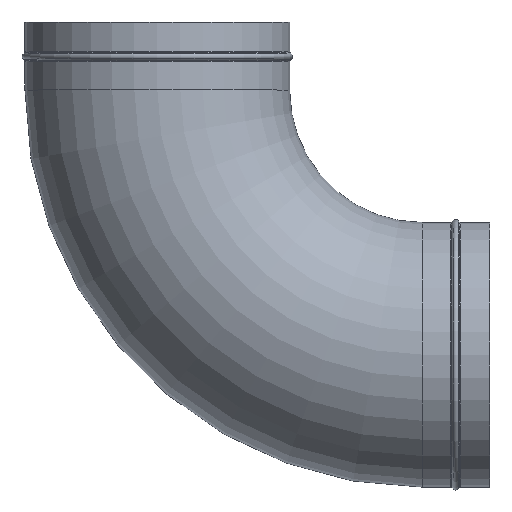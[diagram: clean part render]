
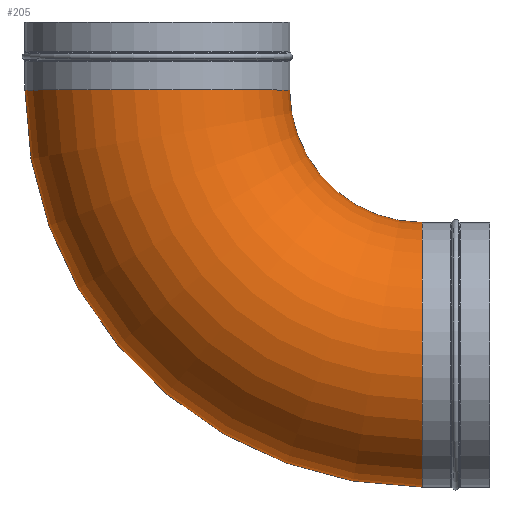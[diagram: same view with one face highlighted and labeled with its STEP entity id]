
A CAD part, top view. The second image highlights one B-rep face of the part: STEP entity #205.
In plain terms, the highlighted toroidal (fillet/blend) face has major radius 273 mm and minor radius 136.5 mm.
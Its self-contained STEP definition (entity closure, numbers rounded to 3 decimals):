
#205=ADVANCED_FACE('',(#295),#267,.T.);
#267=TOROIDAL_SURFACE('',#994,273.,136.5);
#295=FACE_OUTER_BOUND('',#355,.T.);
#355=EDGE_LOOP('',(#419,#420,#421,#422,#423,#424));
#419=ORIENTED_EDGE('',*,*,#755,.T.);
#420=ORIENTED_EDGE('',*,*,#756,.F.);
#421=ORIENTED_EDGE('',*,*,#757,.F.);
#422=ORIENTED_EDGE('',*,*,#758,.F.);
#423=ORIENTED_EDGE('',*,*,#759,.T.);
#424=ORIENTED_EDGE('',*,*,#760,.T.);
#683=VERTEX_POINT('',#1510);
#684=VERTEX_POINT('',#1511);
#685=VERTEX_POINT('',#1513);
#686=VERTEX_POINT('',#1515);
#687=VERTEX_POINT('',#1517);
#688=VERTEX_POINT('',#1519);
#755=EDGE_CURVE('',#683,#684,#887,.T.);
#756=EDGE_CURVE('',#685,#684,#888,.T.);
#757=EDGE_CURVE('',#686,#685,#889,.T.);
#758=EDGE_CURVE('',#687,#686,#890,.T.);
#759=EDGE_CURVE('',#687,#688,#891,.T.);
#760=EDGE_CURVE('',#688,#683,#892,.T.);
#887=CIRCLE('',#988,136.5);
#888=CIRCLE('',#989,136.5);
#889=CIRCLE('',#990,136.5);
#890=CIRCLE('',#991,136.5);
#891=CIRCLE('',#992,409.5);
#892=CIRCLE('',#993,136.5);
#988=AXIS2_PLACEMENT_3D('',#1509,#1152,#1153);
#989=AXIS2_PLACEMENT_3D('',#1512,#1154,#1155);
#990=AXIS2_PLACEMENT_3D('',#1514,#1156,#1157);
#991=AXIS2_PLACEMENT_3D('',#1516,#1158,#1159);
#992=AXIS2_PLACEMENT_3D('',#1518,#1160,#1161);
#993=AXIS2_PLACEMENT_3D('',#1520,#1162,#1163);
#994=AXIS2_PLACEMENT_3D('',#1521,#1164,#1165);
#1152=DIRECTION('',(-1.,0.,0.));
#1153=DIRECTION('',(0.,0.,1.));
#1154=DIRECTION('',(0.,0.,1.));
#1155=DIRECTION('',(-1.,0.,0.));
#1156=DIRECTION('',(0.,1.,0.));
#1157=DIRECTION('',(0.,0.,1.));
#1158=DIRECTION('',(0.,1.,0.));
#1159=DIRECTION('',(-1.,0.,0.));
#1160=DIRECTION('',(0.,0.,1.));
#1161=DIRECTION('',(-1.,0.,0.));
#1162=DIRECTION('',(-1.,0.,0.));
#1163=DIRECTION('',(0.,-1.,0.));
#1164=DIRECTION('',(0.,0.,1.));
#1165=DIRECTION('',(-1.,0.,0.));
#1509=CARTESIAN_POINT('',(0.,-273.,0.));
#1510=CARTESIAN_POINT('',(0.,-273.,136.5));
#1511=CARTESIAN_POINT('',(0.,-136.5,0.));
#1512=CARTESIAN_POINT('',(0.,0.,0.));
#1513=CARTESIAN_POINT('',(-136.5,0.,0.));
#1514=CARTESIAN_POINT('',(-273.,0.,0.));
#1515=CARTESIAN_POINT('',(-273.,0.,136.5));
#1516=CARTESIAN_POINT('',(-273.,0.,0.));
#1517=CARTESIAN_POINT('',(-409.5,0.,0.));
#1518=CARTESIAN_POINT('',(0.,0.,0.));
#1519=CARTESIAN_POINT('',(0.,-409.5,0.));
#1520=CARTESIAN_POINT('',(0.,-273.,0.));
#1521=CARTESIAN_POINT('',(0.,0.,0.));
